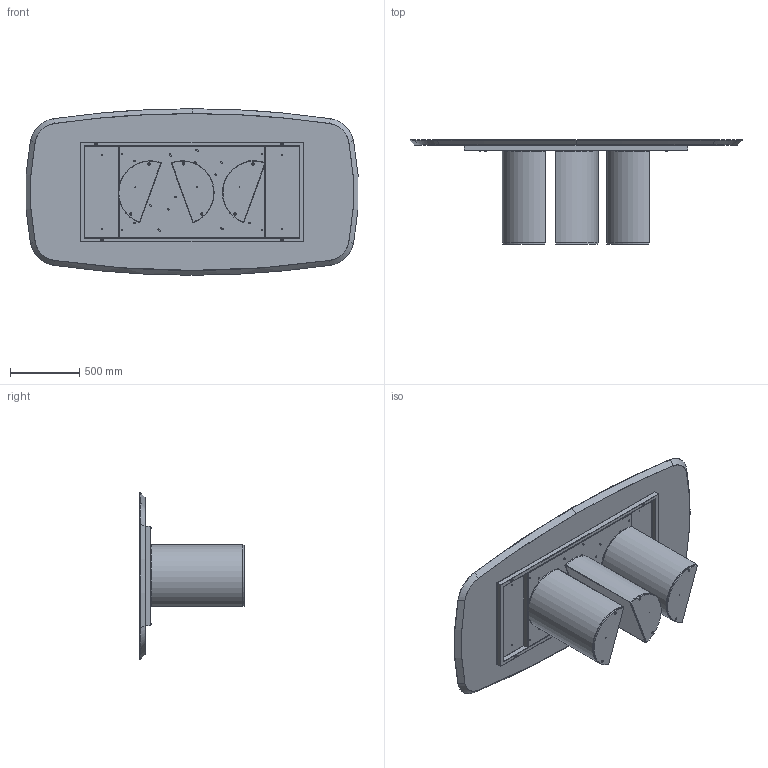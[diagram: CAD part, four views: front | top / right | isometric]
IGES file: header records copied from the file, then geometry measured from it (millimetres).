
Start section: SolidWorks IGES file using analytic representation for surfaces
Global section: file name: Y:\eforma\TECNICO\SOLIDWORKS\E-FORMA\1-TAVOLI\PLAI\02 parts\PL43W.IGS; native system: SolidWorks 2022; preprocessor: SolidWorks 2022; author: eforma.tech; date: 240807.155604; units: millimetre
Bounding box: 2391.9 x 752 x 1200 mm (x, y, z)
Volume: 109708973.7 mm3; surface area: 14070823.6 mm2
Topology: 44 solids, 44 shells, 1311 faces, 2968 edges, 1708 vertices
Faces by surface type: revolution 804, plane 507
